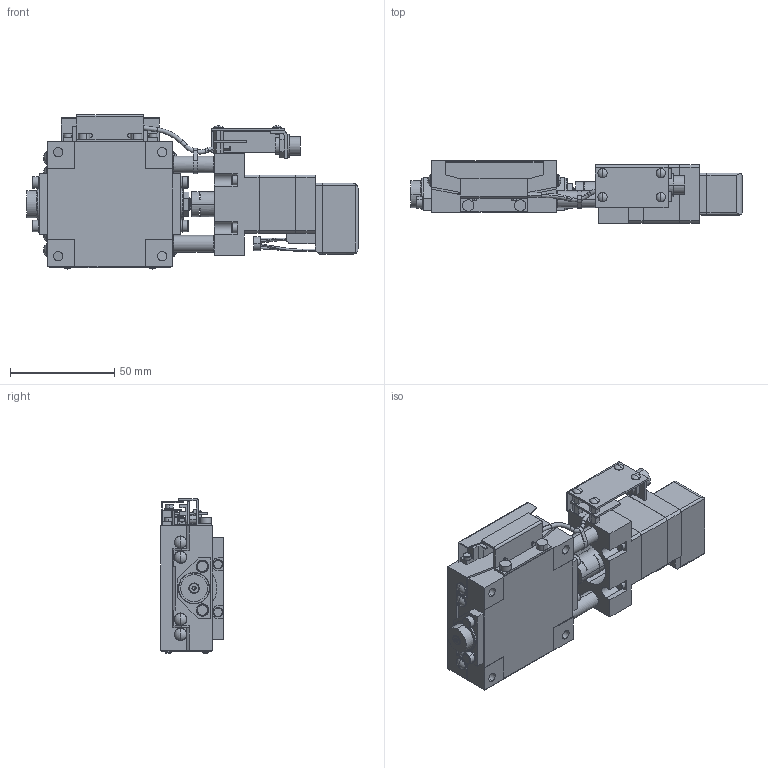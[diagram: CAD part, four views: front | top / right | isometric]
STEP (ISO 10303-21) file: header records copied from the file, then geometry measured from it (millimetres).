
FILE_DESCRIPTION (( 'STEP AP214' ), '1' );
FILE_NAME ('KGB06100M-RZA.STEP', '2024-04-16T08:56:40', ( '' ), ( '' ), 'SwSTEP 2.0', 'SolidWorks 2017', '' );
FILE_SCHEMA (( 'AUTOMOTIVE_DESIGN' ));
Length unit declared in the file: millimetre
Products named in the file (5): KGB06100M-RZA; KGB-60-ZA-R; KGB-TOP-06100-R; KGB-BASE-06100-R; 60-M-6-R
Assembly tree (4 placements, depth 2):
  KGB06100M-RZA
    KGB-BASE-06100-R
    KGB-TOP-06100-R
    KGB-60-ZA-R
    60-M-6-R
Bounding box: 159.4 x 30 x 74.3 mm (x, y, z)
Volume: 154976.5 mm3; surface area: 52369.6 mm2
Topology: 4 solids, 38 shells, 1119 faces, 2733 edges, 1755 vertices
Faces by surface type: plane 456, cylinder 443, cone 96, torus 80, sphere 36, bspline 8
Entity records: 34484 total; most frequent: CARTESIAN_POINT 6779, DIRECTION 6095, ORIENTED_EDGE 5394, EDGE_CURVE 2697, AXIS2_PLACEMENT_3D 2367, VERTEX_POINT 1755, VECTOR 1361, LINE 1361
